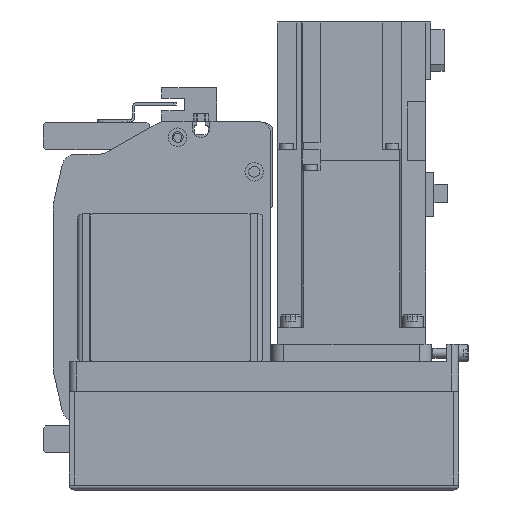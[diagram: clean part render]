
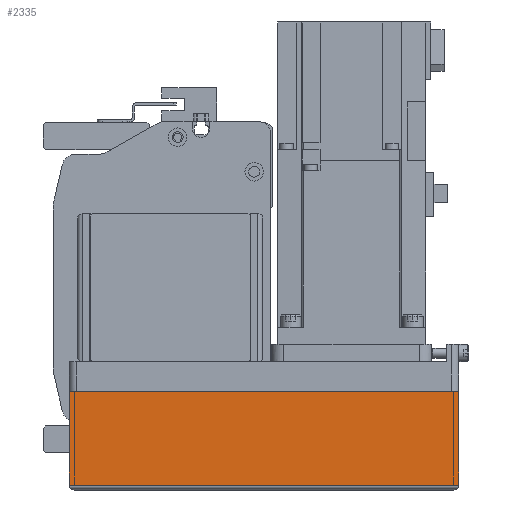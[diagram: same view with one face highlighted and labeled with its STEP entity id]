
A CAD part, left-side view. The second image highlights one B-rep face of the part: STEP entity #2335.
In plain terms, the highlighted planar face has unit normal (-1, 0, 0) as drawn and (0, 1, 0) by its records, which use the part's own axes.
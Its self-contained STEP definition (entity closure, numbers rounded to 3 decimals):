
#2335 = ADVANCED_FACE( '', ( #5165 ), #5166, .T. );
#5165 = FACE_OUTER_BOUND( '', #8483, .T. );
#5166 = PLANE( '', #8484 );
#8483 = EDGE_LOOP( '', ( #15065, #15066, #15067, #15068 ) );
#8484 = AXIS2_PLACEMENT_3D( '', #15069, #15070, #15071 );
#15065 = ORIENTED_EDGE( '', *, *, #21439, .F. );
#15066 = ORIENTED_EDGE( '', *, *, #21440, .F. );
#15067 = ORIENTED_EDGE( '', *, *, #21441, .T. );
#15068 = ORIENTED_EDGE( '', *, *, #20826, .T. );
#15069 = CARTESIAN_POINT( '', ( -158., 39., -50. ) );
#15070 = DIRECTION( '', ( 0., 1., 0. ) );
#15071 = DIRECTION( '', ( 0., 0., 1. ) );
#20826 = EDGE_CURVE( '', #25607, #25605, #25608, .T. );
#21439 = EDGE_CURVE( '', #26462, #25605, #26463, .T. );
#21440 = EDGE_CURVE( '', #26464, #26462, #26465, .T. );
#21441 = EDGE_CURVE( '', #26464, #25607, #26466, .T. );
#25605 = VERTEX_POINT( '', #32391 );
#25607 = VERTEX_POINT( '', #32394 );
#25608 = LINE( '', #32395, #32396 );
#26462 = VERTEX_POINT( '', #33589 );
#26463 = LINE( '', #33590, #33591 );
#26464 = VERTEX_POINT( '', #33592 );
#26465 = LINE( '', #33593, #33594 );
#26466 = LINE( '', #33595, #33596 );
#32391 = CARTESIAN_POINT( '', ( 0., 39., -12.1 ) );
#32394 = CARTESIAN_POINT( '', ( -158., 39., -12.1 ) );
#32395 = CARTESIAN_POINT( '', ( -158., 39., -12.1 ) );
#32396 = VECTOR( '', #37656, 1000. );
#33589 = CARTESIAN_POINT( '', ( 0., 39., -50. ) );
#33590 = CARTESIAN_POINT( '', ( 0., 39., -50. ) );
#33591 = VECTOR( '', #38406, 1000. );
#33592 = CARTESIAN_POINT( '', ( -158., 39., -50. ) );
#33593 = CARTESIAN_POINT( '', ( -158., 39., -50. ) );
#33594 = VECTOR( '', #38407, 1000. );
#33595 = CARTESIAN_POINT( '', ( -158., 39., -50. ) );
#33596 = VECTOR( '', #38408, 1000. );
#37656 = DIRECTION( '', ( 1., 0., 0. ) );
#38406 = DIRECTION( '', ( 0., 0., 1. ) );
#38407 = DIRECTION( '', ( 1., 0., 0. ) );
#38408 = DIRECTION( '', ( 0., 0., 1. ) );
